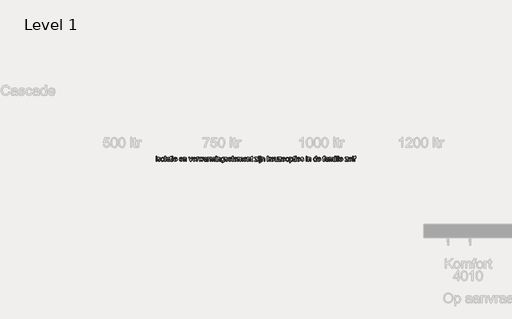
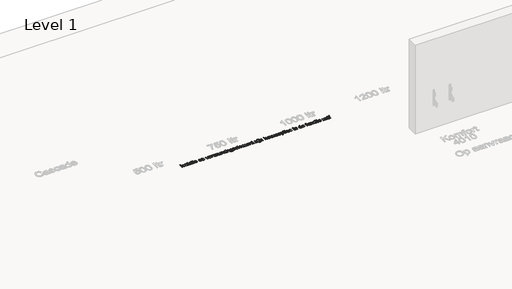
# One storey, part 30 of 34: 1 proxy.
"""IFC4 building model written with IfcOpenShell, lengths in millimetres."""

from ifc_helpers import new_model, si_unit, origin, origin_with_axes, place, context, project, spatial, polyline, outline, extrude, element, save

model = new_model("IFC4")

# Units and contexts
model_context = context("Model", 3, world=origin())
ifc_project = project(units=[si_unit("LENGTHUNIT", "METRE", prefix="MILLI")], contexts=[model_context])

# Site, building, storey
site = spatial("IfcSite", under=ifc_project)
building = spatial("IfcBuilding", under=site)
storey = spatial("IfcBuildingStorey", under=building, Name="Level 1", Elevation=0.0)

# Proxy
placement = place(None, origin())
element("IfcBuildingElementProxy", 1, Name="DN", ObjectType="DN", at=placement, inside=storey, context=model_context, shape_type="SweptSolid", body=[
    extrude(outline(polyline([(-7133.3371494, 10942.2806038), (-7133.3371494, 10997.6100558), (-7123.9193703, 10997.6100558), (-7123.9193703, 10942.2806038), (-7133.3371494, 10942.2806038)])), origin_with_axes(), (0.0, 0.0, 1.0), 5.0),
    extrude(outline(polyline([(-7133.3371494, 11008.2050573), (-7133.3371494, 11017.6228364), (-7123.9193703, 11017.6228364), (-7123.9193703, 11008.2050573), (-7133.3371494, 11008.2050573)])), origin_with_axes(), (0.0, 0.0, 1.0), 5.0),
    extrude(outline(polyline([(-7113.3243688, 10958.7617172), (-7103.9065897, 10959.9389395), (-7099.5471881, 10952.9491816), (-7089.5591919, 10950.5211605), (-7079.9574719, 10952.7468465), (-7076.8304749, 10957.9707709), (-7079.975866, 10962.2014138), (-7089.6695565, 10964.8869524), (-7103.8514074, 10969.4946744), (-7110.041022, 10974.8749485), (-7112.1471464, 10982.4717117), (-7110.4548893, 10989.4890608), (-7105.8379702, 10994.8509409), (-7099.8506907, 10997.637647), (-7091.7480898, 10998.7872782), (-7080.2885656, 10996.9386712), (-7073.0045021, 10991.9354761), (-7069.7671406, 10983.4833872), (-7079.1849197, 10982.3061648), (-7082.7257839, 10987.502498), (-7091.0123258, 10989.3694992), (-7100.0254347, 10987.5852715), (-7102.7293674, 10983.4282049), (-7101.6073273, 10980.6874841), (-7098.0940542, 10978.6089508), (-7089.9822562, 10976.6039939), (-7076.1590903, 10972.1710159), (-7069.7395494, 10967.1494266), (-7067.4126958, 10958.9640523), (-7070.1442196, 10949.9509434), (-7078.0260914, 10943.4118409), (-7089.6879506, 10941.1033814), (-7106.1138817, 10945.5547535), (-7113.3243688, 10958.7617172)])), origin_with_axes(), (0.0, 0.0, 1.0), 5.0),
    extrude(outline(polyline([(-7059.1721391, 10969.9453298), (-7057.1349926, 10983.2856507), (-7051.0235529, 10992.662043), (-7043.472775, 10997.2559694), (-7034.4320749, 10998.7872782), (-7024.5383485, 10996.9225764), (-7016.6357834, 10991.3284708), (-7011.4555451, 10982.4464199), (-7009.728799, 10970.717882), (-7012.7822195, 10953.9608571), (-7021.6757668, 10944.4786987), (-7034.4320749, 10941.1033814), (-7044.445363, 10942.9611855), (-7052.3387311, 10948.5345977), (-7057.4637871, 10957.6028889), (-7059.1721391, 10969.9453298)]), holes=[polyline([(-7049.75436, 10969.9637239), (-7045.3949584, 10955.3680058), (-7034.4320749, 10950.5211605), (-7023.5059797, 10955.3955969), (-7019.146578, 10970.2580295), (-7023.5335708, 10984.5226539), (-7034.4320749, 10989.3694992), (-7045.3949584, 10984.541048), (-7049.75436, 10969.9637239)])]), origin_with_axes(), (0.0, 0.0, 1.0), 5.0),
    extrude(outline(polyline([(-6999.1337975, 10942.2806038), (-6999.1337975, 11017.6228364), (-6989.7160184, 11017.6228364), (-6989.7160184, 10942.2806038), (-6999.1337975, 10942.2806038)])), origin_with_axes(), (0.0, 0.0, 1.0), 5.0),
    extrude(outline(polyline([(-6940.2726783, 10949.3439381), (-6949.4053488, 10942.9611855), (-6959.4945125, 10941.1033814), (-6973.1705257, 10945.5731476), (-6977.9437946, 10956.9958836), (-6976.1411728, 10964.445494), (-6971.4046921, 10969.8533593), (-6964.8104074, 10972.9435681), (-6956.6618212, 10974.3599138), (-6940.3278606, 10977.5972753), (-6940.2726783, 10979.6942027), (-6942.8662463, 10986.6471724), (-6953.2773068, 10989.3694992), (-6962.8054505, 10987.5576803), (-6967.3487931, 10981.1289425), (-6976.7665722, 10982.3061648), (-6972.6922791, 10991.5032147), (-6964.4885106, 10996.892686), (-6952.0632962, 10998.7872782), (-6940.6497573, 10997.1134152), (-6934.2026254, 10992.9103634), (-6931.3147517, 10986.5184137), (-6930.8548992, 10978.277857), (-6930.8548992, 10966.5608155), (-6930.3766526, 10950.1992637), (-6928.5004544, 10942.2806038), (-6937.9182335, 10942.2806038), (-6940.2726783, 10949.3439381)]), holes=[polyline([(-6940.2726783, 10968.1794962), (-6955.4662047, 10965.2916226), (-6963.5688056, 10963.7649123), (-6967.2384285, 10961.2817088), (-6968.5260155, 10957.6580712), (-6965.7209153, 10952.5629055), (-6957.4895557, 10950.5211605), (-6947.961412, 10952.7744377), (-6941.8177827, 10958.2282883), (-6940.3278606, 10965.5123518), (-6940.2726783, 10968.1794962)])]), origin_with_axes(), (0.0, 0.0, 1.0), 5.0),
    extrude(outline(polyline([(-6897.8926724, 10950.1348844), (-6896.7154501, 10942.0046923), (-6903.7603903, 10941.1033814), (-6911.6514591, 10942.6668799), (-6915.5877964, 10946.7687641), (-6916.7282306, 10957.4557361), (-6916.7282306, 10988.1922768), (-6923.7915649, 10988.1922768), (-6923.7915649, 10997.6100558), (-6916.7282306, 10997.6100558), (-6916.7282306, 11011.0561428), (-6907.3104515, 11016.5927668), (-6907.3104515, 10997.6100558), (-6897.8926724, 10997.6100558), (-6897.8926724, 10988.1922768), (-6907.3104515, 10988.1922768), (-6907.3104515, 10957.7316476), (-6906.8138108, 10952.8756052), (-6905.2043271, 10951.1557569), (-6901.9945567, 10950.5211605), (-6897.8926724, 10950.1348844)])), origin_with_axes(), (0.0, 0.0, 1.0), 5.0),
    extrude(outline(polyline([(-6888.4748934, 10942.2806038), (-6888.4748934, 10997.6100558), (-6879.0571143, 10997.6100558), (-6879.0571143, 10942.2806038), (-6888.4748934, 10942.2806038)])), origin_with_axes(), (0.0, 0.0, 1.0), 5.0),
    extrude(outline(polyline([(-6888.4748934, 11008.2050573), (-6888.4748934, 11017.6228364), (-6879.0571143, 11017.6228364), (-6879.0571143, 11008.2050573), (-6888.4748934, 11008.2050573)])), origin_with_axes(), (0.0, 0.0, 1.0), 5.0),
    extrude(outline(polyline([(-6826.1924716, 10958.7617172), (-6816.9586335, 10957.5844948), (-6825.5946633, 10945.4259948), (-6841.6803036, 10941.1033814), (-6852.730559, 10942.9680833), (-6861.2332316, 10948.5621888), (-6866.6548925, 10957.5224147), (-6868.4621128, 10969.4854773), (-6866.6364984, 10981.8509109), (-6861.1596552, 10991.0985445), (-6852.7719457, 10996.8650948), (-6842.2137325, 10998.7872782), (-6831.9843137, 10996.8696933), (-6823.8104357, 10991.1169386), (-6818.4508548, 10981.8876991), (-6816.6643279, 10969.5406596), (-6816.7195102, 10967.0022739), (-6859.0443337, 10967.0022739), (-6853.6272714, 10954.7701975), (-6841.4963626, 10950.5211605), (-6832.2625245, 10952.4893291), (-6826.1924716, 10958.7617172)]), holes=[polyline([(-6859.0443337, 10976.4200529), (-6826.082107, 10976.4200529), (-6829.8528974, 10984.9549152), (-6842.2505207, 10989.3694992), (-6853.8480006, 10985.8470291), (-6859.0443337, 10976.4200529)])]), origin_with_axes(), (0.0, 0.0, 1.0), 5.0),
    extrude(outline(polyline([(-6739.0780151, 10958.7617172), (-6729.844177, 10957.5844948), (-6738.4802069, 10945.4259948), (-6754.5658471, 10941.1033814), (-6765.6161025, 10942.9680833), (-6774.1187752, 10948.5621888), (-6779.5404361, 10957.5224147), (-6781.3476564, 10969.4854773), (-6779.522042, 10981.8509109), (-6774.0451988, 10991.0985445), (-6765.6574893, 10996.8650948), (-6755.099276, 10998.7872782), (-6744.8698573, 10996.8696933), (-6736.6959792, 10991.1169386), (-6731.3363984, 10981.8876991), (-6729.5498714, 10969.5406596), (-6729.6050537, 10967.0022739), (-6771.9298773, 10967.0022739), (-6766.5128149, 10954.7701975), (-6754.3819061, 10950.5211605), (-6745.148068, 10952.4893291), (-6739.0780151, 10958.7617172)]), holes=[polyline([(-6771.9298773, 10976.4200529), (-6738.9676505, 10976.4200529), (-6742.738441, 10984.9549152), (-6755.1360642, 10989.3694992), (-6766.7335441, 10985.8470291), (-6771.9298773, 10976.4200529)])]), origin_with_axes(), (0.0, 0.0, 1.0), 5.0),
    extrude(outline(polyline([(-6720.1320924, 10942.2806038), (-6720.1320924, 10997.6100558), (-6710.7143133, 10997.6100558), (-6710.7143133, 10989.884534), (-6703.5130232, 10996.5615922), (-6693.6813769, 10998.7872782), (-6684.7878297, 10996.9938535), (-6678.7177768, 10992.284964), (-6675.8942824, 10985.3595854), (-6675.3976418, 10976.254506), (-6675.3976418, 10942.2806038), (-6684.8154208, 10942.2806038), (-6684.8154208, 10974.9853131), (-6685.9006727, 10983.3178403), (-6689.7358425, 10987.7232272), (-6696.2013686, 10989.3694992), (-6706.419291, 10985.6722851), (-6710.7143133, 10971.637587), (-6710.7143133, 10942.2806038), (-6720.1320924, 10942.2806038)])), origin_with_axes(), (0.0, 0.0, 1.0), 5.0),
    extrude(outline(polyline([(-6619.4427903, 10942.2806038), (-6638.9037478, 10997.6100558), (-6628.9341458, 10997.6100558), (-6617.1435278, 10964.4638881), (-6613.5934666, 10953.3170636), (-6610.1169817, 10963.8384887), (-6598.2527874, 10997.6100558), (-6588.2831853, 10997.6100558), (-6607.5050195, 10942.2806038), (-6619.4427903, 10942.2806038)])), origin_with_axes(), (0.0, 0.0, 1.0), 5.0),
    extrude(outline(polyline([(-6541.3046545, 10958.7617172), (-6532.0708164, 10957.5844948), (-6540.7068463, 10945.4259948), (-6556.7924865, 10941.1033814), (-6567.8427419, 10942.9680833), (-6576.3454146, 10948.5621888), (-6581.7670755, 10957.5224147), (-6583.5742958, 10969.4854773), (-6581.7486814, 10981.8509109), (-6576.2718382, 10991.0985445), (-6567.8841287, 10996.8650948), (-6557.3259154, 10998.7872782), (-6547.0964967, 10996.8696933), (-6538.9226186, 10991.1169386), (-6533.5630378, 10981.8876991), (-6531.7765108, 10969.5406596), (-6531.8316931, 10967.0022739), (-6574.1565167, 10967.0022739), (-6568.7394543, 10954.7701975), (-6556.6085455, 10950.5211605), (-6547.3747074, 10952.4893291), (-6541.3046545, 10958.7617172)]), holes=[polyline([(-6574.1565167, 10976.4200529), (-6541.1942899, 10976.4200529), (-6544.9650804, 10984.9549152), (-6557.3627036, 10989.3694992), (-6568.9601835, 10985.8470291), (-6574.1565167, 10976.4200529)])]), origin_with_axes(), (0.0, 0.0, 1.0), 5.0),
    extrude(outline(polyline([(-6522.3587318, 10942.2806038), (-6522.3587318, 10997.6100558), (-6514.1181751, 10997.6100558), (-6514.1181751, 10989.4246815), (-6508.2688513, 10996.9662624), (-6502.3827394, 10998.7872782), (-6492.9281721, 10995.8810105), (-6496.0735632, 10987.4381187), (-6502.6954391, 10989.3694992), (-6508.020531, 10987.5116951), (-6511.4142424, 10982.3613471), (-6512.9409527, 10971.3616755), (-6512.9409527, 10942.2806038), (-6522.3587318, 10942.2806038)])), origin_with_axes(), (0.0, 0.0, 1.0), 5.0),
    extrude(outline(polyline([(-6477.8634044, 10942.2806038), (-6494.6940057, 10997.6100558), (-6484.9083447, 10997.6100558), (-6475.3618069, 10965.3284108), (-6472.5107214, 10953.7953102), (-6470.1746707, 10964.9053465), (-6462.5779075, 10997.6100558), (-6451.3575067, 10997.6100558), (-6443.7975317, 10964.997317), (-6441.7189984, 10954.9357444), (-6438.7391543, 10965.54914), (-6429.1742224, 10997.6100558), (-6419.3517731, 10997.6100558), (-6436.3111331, 10942.2806038), (-6447.6970808, 10942.2806038), (-6454.925962, 10974.7277957), (-6457.0228894, 10984.8445506), (-6466.348698, 10942.2806038), (-6477.8634044, 10942.2806038)])), origin_with_axes(), (0.0, 0.0, 1.0), 5.0),
    extrude(outline(polyline([(-6377.5603785, 10949.3439381), (-6386.693049, 10942.9611855), (-6396.7822127, 10941.1033814), (-6410.4582259, 10945.5731476), (-6415.2314948, 10956.9958836), (-6413.428873, 10964.445494), (-6408.6923923, 10969.8533593), (-6402.0981075, 10972.9435681), (-6393.9495213, 10974.3599138), (-6377.6155608, 10977.5972753), (-6377.5603785, 10979.6942027), (-6380.1539465, 10986.6471724), (-6390.565007, 10989.3694992), (-6400.0931507, 10987.5576803), (-6404.6364933, 10981.1289425), (-6414.0542724, 10982.3061648), (-6409.9799793, 10991.5032147), (-6401.7762108, 10996.892686), (-6389.3509964, 10998.7872782), (-6377.9374575, 10997.1134152), (-6371.4903255, 10992.9103634), (-6368.6024519, 10986.5184137), (-6368.1425994, 10978.277857), (-6368.1425994, 10966.5608155), (-6367.6643528, 10950.1992637), (-6365.7881546, 10942.2806038), (-6375.2059337, 10942.2806038), (-6377.5603785, 10949.3439381)]), holes=[polyline([(-6377.5603785, 10968.1794962), (-6392.7539049, 10965.2916226), (-6400.8565058, 10963.7649123), (-6404.5261287, 10961.2817088), (-6405.8137157, 10957.6580712), (-6403.0086155, 10952.5629055), (-6394.7772558, 10950.5211605), (-6385.2491122, 10952.7744377), (-6379.1054828, 10958.2282883), (-6377.6155608, 10965.5123518), (-6377.5603785, 10968.1794962)])]), origin_with_axes(), (0.0, 0.0, 1.0), 5.0),
    extrude(outline(polyline([(-6355.1931532, 10942.2806038), (-6355.1931532, 10997.6100558), (-6346.9525965, 10997.6100558), (-6346.9525965, 10989.4246815), (-6341.1032727, 10996.9662624), (-6335.2171608, 10998.7872782), (-6325.7625935, 10995.8810105), (-6328.9079846, 10987.4381187), (-6335.5298605, 10989.3694992), (-6340.8549524, 10987.5116951), (-6344.2486638, 10982.3613471), (-6345.7753741, 10971.3616755), (-6345.7753741, 10942.2806038), (-6355.1931532, 10942.2806038)])), origin_with_axes(), (0.0, 0.0, 1.0), 5.0),
    extrude(outline(polyline([(-6319.8764816, 10942.2806038), (-6319.8764816, 10997.6100558), (-6310.4587025, 10997.6100558), (-6310.4587025, 10988.5049765), (-6303.9839794, 10995.9637839), (-6294.7685354, 10998.7872782), (-6285.3323623, 10995.9086016), (-6280.1452261, 10987.8427889), (-6272.7967833, 10996.0511559), (-6263.51696, 10998.7872782), (-6251.2021102, 10994.2347385), (-6246.8886938, 10980.2092375), (-6246.8886938, 10942.2806038), (-6256.3064728, 10942.2806038), (-6256.3064728, 10976.1625355), (-6257.1801926, 10984.0260132), (-6260.3439777, 10987.8979712), (-6265.7242519, 10989.3694992), (-6274.9856812, 10985.5987087), (-6278.6736982, 10973.5137852), (-6278.6736982, 10942.2806038), (-6288.0914772, 10942.2806038), (-6288.0914772, 10977.2109992), (-6290.2711781, 10986.3344727), (-6297.4172858, 10989.3694992), (-6304.3886496, 10987.3461482), (-6309.0239628, 10981.4232481), (-6310.4587025, 10970.1844531), (-6310.4587025, 10942.2806038), (-6319.8764816, 10942.2806038)])), origin_with_axes(), (0.0, 0.0, 1.0), 5.0),
    extrude(outline(polyline([(-6232.7620252, 11008.2050573), (-6232.7620252, 11017.6228364), (-6223.3442461, 11017.6228364), (-6223.3442461, 11008.2050573), (-6232.7620252, 11008.2050573)])), origin_with_axes(), (0.0, 0.0, 1.0), 5.0),
    extrude(outline(polyline([(-6232.7620252, 10942.2806038), (-6232.7620252, 10997.6100558), (-6223.3442461, 10997.6100558), (-6223.3442461, 10942.2806038), (-6232.7620252, 10942.2806038)])), origin_with_axes(), (0.0, 0.0, 1.0), 5.0),
    extrude(outline(polyline([(-6209.2175775, 10942.2806038), (-6209.2175775, 10997.6100558), (-6199.7997984, 10997.6100558), (-6199.7997984, 10989.884534), (-6192.5985083, 10996.5615922), (-6182.766862, 10998.7872782), (-6173.8733148, 10996.9938535), (-6167.8032619, 10992.284964), (-6164.9797675, 10985.3595854), (-6164.4831269, 10976.254506), (-6164.4831269, 10942.2806038), (-6173.9009059, 10942.2806038), (-6173.9009059, 10974.9853131), (-6174.9861578, 10983.3178403), (-6178.8213276, 10987.7232272), (-6185.2868537, 10989.3694992), (-6195.5047761, 10985.6722851), (-6199.7997984, 10971.637587), (-6199.7997984, 10942.2806038), (-6209.2175775, 10942.2806038)])), origin_with_axes(), (0.0, 0.0, 1.0), 5.0),
    extrude(outline(polyline([(-6153.8881254, 10937.5717142), (-6144.4703463, 10936.3944919), (-6141.4169258, 10931.4280849), (-6132.2750582, 10929.3311575), (-6122.6365499, 10931.7039964), (-6118.038025, 10938.3626605), (-6117.3942315, 10949.3439381), (-6124.0253044, 10944.0464374), (-6132.1095113, 10942.2806038), (-6141.8192967, 10944.3361444), (-6149.0596742, 10950.5027664), (-6153.5639294, 10959.5434664), (-6155.0653478, 10970.2212413), (-6152.3706122, 10984.8169595), (-6144.5715139, 10995.1452465), (-6132.5693638, 10998.7872782), (-6124.1678587, 10996.7271391), (-6117.3942315, 10990.5467215), (-6117.3942315, 10997.6100558), (-6107.9764524, 10997.6100558), (-6107.9764524, 10949.8405788), (-6110.5516264, 10931.5476466), (-6118.7094096, 10923.0403754), (-6132.4589992, 10919.9133785), (-6148.1215751, 10924.3187654), (-6152.5476554, 10929.834696), (-6153.8881254, 10937.5717142)]), holes=[polyline([(-6145.6475687, 10970.8650348), (-6141.6284579, 10956.2877107), (-6131.5392942, 10951.6983829), (-6121.4685246, 10956.2601196), (-6117.3942315, 10970.5891233), (-6121.5880862, 10984.6330185), (-6131.686447, 10989.3694992), (-6141.5732756, 10984.7065949), (-6145.6475687, 10970.8650348)])]), origin_with_axes(), (0.0, 0.0, 1.0), 5.0),
    extrude(outline(polyline([(-6097.3814509, 10958.7617172), (-6087.9636719, 10959.9389395), (-6083.6042702, 10952.9491816), (-6073.616274, 10950.5211605), (-6064.014554, 10952.7468465), (-6060.887557, 10957.9707709), (-6064.0329481, 10962.2014138), (-6073.7266386, 10964.8869524), (-6087.9084896, 10969.4946744), (-6094.0981041, 10974.8749485), (-6096.2042285, 10982.4717117), (-6094.5119714, 10989.4890608), (-6089.8950523, 10994.8509409), (-6083.9077729, 10997.637647), (-6075.8051719, 10998.7872782), (-6064.3456478, 10996.9386712), (-6057.0615843, 10991.9354761), (-6053.8242227, 10983.4833872), (-6063.2420018, 10982.3061648), (-6066.782866, 10987.502498), (-6075.0694079, 10989.3694992), (-6084.0825168, 10987.5852715), (-6086.7864495, 10983.4282049), (-6085.6644094, 10980.6874841), (-6082.1511363, 10978.6089508), (-6074.0393383, 10976.6039939), (-6060.2161724, 10972.1710159), (-6053.7966316, 10967.1494266), (-6051.4697779, 10958.9640523), (-6054.2013017, 10949.9509434), (-6062.0831735, 10943.4118409), (-6073.7450327, 10941.1033814), (-6090.1709638, 10945.5547535), (-6097.3814509, 10958.7617172)])), origin_with_axes(), (0.0, 0.0, 1.0), 5.0),
    extrude(outline(polyline([(-6002.1368024, 10958.7617172), (-5992.9029643, 10957.5844948), (-6001.5389941, 10945.4259948), (-6017.6246344, 10941.1033814), (-6028.6748898, 10942.9680833), (-6037.1775624, 10948.5621888), (-6042.5992233, 10957.5224147), (-6044.4064436, 10969.4854773), (-6042.5808292, 10981.8509109), (-6037.103986, 10991.0985445), (-6028.7162765, 10996.8650948), (-6018.1580633, 10998.7872782), (-6007.9286445, 10996.8696933), (-5999.7547665, 10991.1169386), (-5994.3951856, 10981.8876991), (-5992.6086587, 10969.5406596), (-5992.663841, 10967.0022739), (-6034.9886646, 10967.0022739), (-6029.5716022, 10954.7701975), (-6017.4406934, 10950.5211605), (-6008.2068553, 10952.4893291), (-6002.1368024, 10958.7617172)]), holes=[polyline([(-6034.9886646, 10976.4200529), (-6002.0264378, 10976.4200529), (-6005.7972282, 10984.9549152), (-6018.1948515, 10989.3694992), (-6029.7923314, 10985.8470291), (-6034.9886646, 10976.4200529)])]), origin_with_axes(), (0.0, 0.0, 1.0), 5.0),
    extrude(outline(polyline([(-5983.1908796, 10942.2806038), (-5983.1908796, 11017.6228364), (-5973.7731006, 11017.6228364), (-5973.7731006, 10942.2806038), (-5983.1908796, 10942.2806038)])), origin_with_axes(), (0.0, 0.0, 1.0), 5.0),
    extrude(outline(polyline([(-5920.9084578, 10958.7617172), (-5911.6746198, 10957.5844948), (-5920.3106496, 10945.4259948), (-5936.3962898, 10941.1033814), (-5947.4465453, 10942.9680833), (-5955.9492179, 10948.5621888), (-5961.3708788, 10957.5224147), (-5963.1780991, 10969.4854773), (-5961.3524847, 10981.8509109), (-5955.8756415, 10991.0985445), (-5947.487932, 10996.8650948), (-5936.9297187, 10998.7872782), (-5926.7003, 10996.8696933), (-5918.5264219, 10991.1169386), (-5913.1668411, 10981.8876991), (-5911.3803142, 10969.5406596), (-5911.4354965, 10967.0022739), (-5953.76032, 10967.0022739), (-5948.3432576, 10954.7701975), (-5936.2123488, 10950.5211605), (-5926.9785108, 10952.4893291), (-5920.9084578, 10958.7617172)]), holes=[polyline([(-5953.76032, 10976.4200529), (-5920.7980932, 10976.4200529), (-5924.5688837, 10984.9549152), (-5936.9665069, 10989.3694992), (-5948.5639868, 10985.8470291), (-5953.76032, 10976.4200529)])]), origin_with_axes(), (0.0, 0.0, 1.0), 5.0),
    extrude(outline(polyline([(-5901.9625351, 10942.2806038), (-5901.9625351, 10997.6100558), (-5892.544756, 10997.6100558), (-5892.544756, 10988.5049765), (-5886.0700329, 10995.9637839), (-5876.8545889, 10998.7872782), (-5867.4184157, 10995.9086016), (-5862.2312796, 10987.8427889), (-5854.8828368, 10996.0511559), (-5845.6030134, 10998.7872782), (-5833.2881636, 10994.2347385), (-5828.9747473, 10980.2092375), (-5828.9747473, 10942.2806038), (-5838.3925263, 10942.2806038), (-5838.3925263, 10976.1625355), (-5839.2662461, 10984.0260132), (-5842.4300312, 10987.8979712), (-5847.8103054, 10989.3694992), (-5857.0717346, 10985.5987087), (-5860.7597516, 10973.5137852), (-5860.7597516, 10942.2806038), (-5870.1775307, 10942.2806038), (-5870.1775307, 10977.2109992), (-5872.3572315, 10986.3344727), (-5879.5033393, 10989.3694992), (-5886.4747031, 10987.3461482), (-5891.1100162, 10981.4232481), (-5892.544756, 10970.1844531), (-5892.544756, 10942.2806038), (-5901.9625351, 10942.2806038)])), origin_with_axes(), (0.0, 0.0, 1.0), 5.0),
    extrude(outline(polyline([(-5776.1101045, 10958.7617172), (-5766.8762665, 10957.5844948), (-5775.5122963, 10945.4259948), (-5791.5979365, 10941.1033814), (-5802.648192, 10942.9680833), (-5811.1508646, 10948.5621888), (-5816.5725255, 10957.5224147), (-5818.3797458, 10969.4854773), (-5816.5541314, 10981.8509109), (-5811.0772882, 10991.0985445), (-5802.6895787, 10996.8650948), (-5792.1313654, 10998.7872782), (-5781.9019467, 10996.8696933), (-5773.7280686, 10991.1169386), (-5768.3684878, 10981.8876991), (-5766.5819609, 10969.5406596), (-5766.6371432, 10967.0022739), (-5808.9619667, 10967.0022739), (-5803.5449043, 10954.7701975), (-5791.4139955, 10950.5211605), (-5782.1801575, 10952.4893291), (-5776.1101045, 10958.7617172)]), holes=[polyline([(-5808.9619667, 10976.4200529), (-5775.9997399, 10976.4200529), (-5779.7705304, 10984.9549152), (-5792.1681536, 10989.3694992), (-5803.7656335, 10985.8470291), (-5808.9619667, 10976.4200529)])]), origin_with_axes(), (0.0, 0.0, 1.0), 5.0),
    extrude(outline(polyline([(-5757.1641818, 10942.2806038), (-5757.1641818, 10997.6100558), (-5747.7464027, 10997.6100558), (-5747.7464027, 10989.884534), (-5740.5451127, 10996.5615922), (-5730.7134663, 10998.7872782), (-5721.8199191, 10996.9938535), (-5715.7498662, 10992.284964), (-5712.9263719, 10985.3595854), (-5712.4297312, 10976.254506), (-5712.4297312, 10942.2806038), (-5721.8475103, 10942.2806038), (-5721.8475103, 10974.9853131), (-5722.9327621, 10983.3178403), (-5726.7679319, 10987.7232272), (-5733.233458, 10989.3694992), (-5743.4513804, 10985.6722851), (-5747.7464027, 10971.637587), (-5747.7464027, 10942.2806038), (-5757.1641818, 10942.2806038)])), origin_with_axes(), (0.0, 0.0, 1.0), 5.0),
    extrude(outline(polyline([(-5679.4675044, 10950.1348844), (-5678.290282, 10942.0046923), (-5685.3352222, 10941.1033814), (-5693.226291, 10942.6668799), (-5697.1626284, 10946.7687641), (-5698.3030626, 10957.4557361), (-5698.3030626, 10988.1922768), (-5705.3663969, 10988.1922768), (-5705.3663969, 10997.6100558), (-5698.3030626, 10997.6100558), (-5698.3030626, 11011.0561428), (-5688.8852835, 11016.5927668), (-5688.8852835, 10997.6100558), (-5679.4675044, 10997.6100558), (-5679.4675044, 10988.1922768), (-5688.8852835, 10988.1922768), (-5688.8852835, 10957.7316476), (-5688.3886428, 10952.8756052), (-5686.7791591, 10951.1557569), (-5683.5693887, 10950.5211605), (-5679.4675044, 10950.1348844)])), origin_with_axes(), (0.0, 0.0, 1.0), 5.0),
    extrude(outline(polyline([(-5646.5052776, 10942.2806038), (-5646.5052776, 10951.1465599), (-5614.0029034, 10988.1922768), (-5623.6230175, 10988.1922768), (-5644.1508329, 10988.1922768), (-5644.1508329, 10997.6100558), (-5600.5936046, 10997.6100558), (-5600.5936046, 10989.6086225), (-5629.417159, 10956.7383662), (-5633.8317429, 10951.6983829), (-5622.9424359, 10951.6983829), (-5599.4163823, 10951.6983829), (-5599.4163823, 10942.2806038), (-5646.5052776, 10942.2806038)])), origin_with_axes(), (0.0, 0.0, 1.0), 5.0),
    extrude(outline(polyline([(-5589.9986032, 11008.2050573), (-5589.9986032, 11017.6228364), (-5580.5808241, 11017.6228364), (-5580.5808241, 11008.2050573), (-5589.9986032, 11008.2050573)])), origin_with_axes(), (0.0, 0.0, 1.0), 5.0),
    extrude(outline(polyline([(-5589.9986032, 10942.2806038), (-5589.9986032, 10997.6100558), (-5580.5808241, 10997.6100558), (-5580.5808241, 10942.2806038), (-5589.9986032, 10942.2806038)])), origin_with_axes(), (0.0, 0.0, 1.0), 5.0),
    extrude(outline(polyline([(-5566.4541555, 11008.2050573), (-5566.4541555, 11017.6228364), (-5557.0363764, 11017.6228364), (-5557.0363764, 11008.2050573), (-5566.4541555, 11008.2050573)])), origin_with_axes(), (0.0, 0.0, 1.0), 5.0),
    extrude(outline(polyline([(-5578.3183498, 10921.0538127), (-5576.3317871, 10930.0117392), (-5572.0091736, 10929.3311575), (-5567.8245159, 10931.1981587), (-5566.4541555, 10940.5331643), (-5566.4541555, 10997.6100558), (-5557.0363764, 10997.6100558), (-5557.0363764, 10939.3191537), (-5559.7035209, 10925.1189087), (-5564.2100753, 10921.214761), (-5570.9607099, 10919.9133785), (-5578.3183498, 10921.0538127)])), origin_with_axes(), (0.0, 0.0, 1.0), 5.0),
    extrude(outline(polyline([(-5542.9097078, 10942.2806038), (-5542.9097078, 10997.6100558), (-5533.4919287, 10997.6100558), (-5533.4919287, 10989.884534), (-5526.2906387, 10996.5615922), (-5516.4589923, 10998.7872782), (-5507.5654451, 10996.9938535), (-5501.4953922, 10992.284964), (-5498.6718979, 10985.3595854), (-5498.1752572, 10976.254506), (-5498.1752572, 10942.2806038), (-5507.5930363, 10942.2806038), (-5507.5930363, 10974.9853131), (-5508.6782882, 10983.3178403), (-5512.513458, 10987.7232272), (-5518.978984, 10989.3694992), (-5529.1969064, 10985.6722851), (-5533.4919287, 10971.637587), (-5533.4919287, 10942.2806038), (-5542.9097078, 10942.2806038)])), origin_with_axes(), (0.0, 0.0, 1.0), 5.0),
    extrude(outline(polyline([(-5455.7952513, 10942.2806038), (-5455.7952513, 11017.6228364), (-5446.3774723, 11017.6228364), (-5446.3774723, 10977.1374228), (-5425.2610457, 10997.6100558), (-5412.2380231, 10997.6100558), (-5433.611967, 10976.8799054), (-5411.0608007, 10942.2806038), (-5422.0604724, 10942.2806038), (-5440.3626016, 10970.3316059), (-5446.3774723, 10964.5006763), (-5446.3774723, 10942.2806038), (-5455.7952513, 10942.2806038)])), origin_with_axes(), (0.0, 0.0, 1.0), 5.0),
    extrude(outline(polyline([(-5364.0822699, 10958.7617172), (-5354.8484319, 10957.5844948), (-5363.4844617, 10945.4259948), (-5379.5701019, 10941.1033814), (-5390.6203574, 10942.9680833), (-5399.12303, 10948.5621888), (-5404.5446909, 10957.5224147), (-5406.3519112, 10969.4854773), (-5404.5262968, 10981.8509109), (-5399.0494536, 10991.0985445), (-5390.6617441, 10996.8650948), (-5380.1035308, 10998.7872782), (-5369.8741121, 10996.8696933), (-5361.700234, 10991.1169386), (-5356.3406532, 10981.8876991), (-5354.5541263, 10969.5406596), (-5354.6093086, 10967.0022739), (-5396.9341321, 10967.0022739), (-5391.5170697, 10954.7701975), (-5379.3861609, 10950.5211605), (-5370.1523229, 10952.4893291), (-5364.0822699, 10958.7617172)]), holes=[polyline([(-5396.9341321, 10976.4200529), (-5363.9719053, 10976.4200529), (-5367.7426958, 10984.9549152), (-5380.140319, 10989.3694992), (-5391.7377989, 10985.8470291), (-5396.9341321, 10976.4200529)])]), origin_with_axes(), (0.0, 0.0, 1.0), 5.0),
    extrude(outline(polyline([(-5309.8196757, 10942.2806038), (-5309.8196757, 10951.7903533), (-5317.1957097, 10943.7751244), (-5326.8158238, 10941.1033814), (-5335.6725829, 10942.9795796), (-5341.779424, 10947.6884691), (-5344.5845242, 10954.6230447), (-5345.1363472, 10963.3786362), (-5345.1363472, 10997.6100558), (-5335.7185681, 10997.6100558), (-5335.7185681, 10967.8116142), (-5335.148351, 10958.2098942), (-5331.4235458, 10952.5721026), (-5324.4061968, 10950.5211605), (-5316.5427191, 10952.6180878), (-5311.3463859, 10958.3294558), (-5309.8196757, 10968.8232897), (-5309.8196757, 10997.6100558), (-5300.4018966, 10997.6100558), (-5300.4018966, 10942.2806038), (-5309.8196757, 10942.2806038)])), origin_with_axes(), (0.0, 0.0, 1.0), 5.0),
    extrude(outline(polyline([(-5293.3385623, 10942.2806038), (-5293.3385623, 10951.1465599), (-5260.836188, 10988.1922768), (-5270.4563022, 10988.1922768), (-5290.9841175, 10988.1922768), (-5290.9841175, 10997.6100558), (-5247.4268893, 10997.6100558), (-5247.4268893, 10989.6086225), (-5276.2504436, 10956.7383662), (-5280.6650275, 10951.6983829), (-5269.7757205, 10951.6983829), (-5246.2496669, 10951.6983829), (-5246.2496669, 10942.2806038), (-5293.3385623, 10942.2806038)])), origin_with_axes(), (0.0, 0.0, 1.0), 5.0),
    extrude(outline(polyline([(-5198.0939137, 10958.7617172), (-5188.8600756, 10957.5844948), (-5197.4961055, 10945.4259948), (-5213.5817457, 10941.1033814), (-5224.6320012, 10942.9680833), (-5233.1346738, 10948.5621888), (-5238.5563347, 10957.5224147), (-5240.363555, 10969.4854773), (-5238.5379406, 10981.8509109), (-5233.0610974, 10991.0985445), (-5224.6733879, 10996.8650948), (-5214.1151746, 10998.7872782), (-5203.8857559, 10996.8696933), (-5195.7118778, 10991.1169386), (-5190.352297, 10981.8876991), (-5188.56577, 10969.5406596), (-5188.6209523, 10967.0022739), (-5230.9457759, 10967.0022739), (-5225.5287135, 10954.7701975), (-5213.3978047, 10950.5211605), (-5204.1639666, 10952.4893291), (-5198.0939137, 10958.7617172)]), holes=[polyline([(-5230.9457759, 10976.4200529), (-5197.9835491, 10976.4200529), (-5201.7543396, 10984.9549152), (-5214.1519628, 10989.3694992), (-5225.7494427, 10985.8470291), (-5230.9457759, 10976.4200529)])]), origin_with_axes(), (0.0, 0.0, 1.0), 5.0),
    extrude(outline(polyline([(-5181.5024357, 10969.9453298), (-5179.4652892, 10983.2856507), (-5173.3538495, 10992.662043), (-5165.8030716, 10997.2559694), (-5156.7623716, 10998.7872782), (-5146.8686452, 10996.9225764), (-5138.96608, 10991.3284708), (-5133.7858417, 10982.4464199), (-5132.0590956, 10970.717882), (-5135.1125161, 10953.9608571), (-5144.0060634, 10944.4786987), (-5156.7623716, 10941.1033814), (-5166.7756596, 10942.9611855), (-5174.6690277, 10948.5345977), (-5179.7940837, 10957.6028889), (-5181.5024357, 10969.9453298)]), holes=[polyline([(-5172.0846567, 10969.9637239), (-5167.725255, 10955.3680058), (-5156.7623716, 10950.5211605), (-5145.8362763, 10955.3955969), (-5141.4768747, 10970.2580295), (-5145.8638675, 10984.5226539), (-5156.7623716, 10989.3694992), (-5167.725255, 10984.541048), (-5172.0846567, 10969.9637239)])]), origin_with_axes(), (0.0, 0.0, 1.0), 5.0),
    extrude(outline(polyline([(-5121.4640941, 10921.0906009), (-5121.4640941, 10997.6100558), (-5112.0463151, 10997.6100558), (-5112.0463151, 10988.3762178), (-5105.5348037, 10996.1845131), (-5096.7424241, 10998.7872782), (-5084.8046533, 10995.1452465), (-5077.005555, 10984.8813388), (-5074.3751987, 10970.3683941), (-5077.3458459, 10955.1104884), (-5085.9726786, 10944.717822), (-5097.8828582, 10941.1033814), (-5106.0774297, 10943.5222055), (-5112.0463151, 10949.6382437), (-5112.0463151, 10921.0906009), (-5121.4640941, 10921.0906009)]), holes=[polyline([(-5112.0463151, 10969.5038714), (-5107.972022, 10955.1564736), (-5098.0851933, 10950.5211605), (-5087.9960296, 10955.3220205), (-5083.7929778, 10970.2028472), (-5087.8948621, 10984.5870332), (-5097.6989172, 10989.3694992), (-5107.6961105, 10984.2835306), (-5112.0463151, 10969.5038714)])]), origin_with_axes(), (0.0, 0.0, 1.0), 5.0),
    extrude(outline(polyline([(-5043.7674167, 10950.1348844), (-5042.5901944, 10942.0046923), (-5049.6351346, 10941.1033814), (-5057.5262034, 10942.6668799), (-5061.4625407, 10946.7687641), (-5062.6029749, 10957.4557361), (-5062.6029749, 10988.1922768), (-5069.6663092, 10988.1922768), (-5069.6663092, 10997.6100558), (-5062.6029749, 10997.6100558), (-5062.6029749, 11011.0561428), (-5053.1851958, 11016.5927668), (-5053.1851958, 10997.6100558), (-5043.7674167, 10997.6100558), (-5043.7674167, 10988.1922768), (-5053.1851958, 10988.1922768), (-5053.1851958, 10957.7316476), (-5052.6885551, 10952.8756052), (-5051.0790714, 10951.1557569), (-5047.869301, 10950.5211605), (-5043.7674167, 10950.1348844)])), origin_with_axes(), (0.0, 0.0, 1.0), 5.0),
    extrude(outline(polyline([(-5034.3496377, 11008.2050573), (-5034.3496377, 11017.6228364), (-5024.9318586, 11017.6228364), (-5024.9318586, 11008.2050573), (-5034.3496377, 11008.2050573)])), origin_with_axes(), (0.0, 0.0, 1.0), 5.0),
    extrude(outline(polyline([(-5034.3496377, 10942.2806038), (-5034.3496377, 10997.6100558), (-5024.9318586, 10997.6100558), (-5024.9318586, 10942.2806038), (-5034.3496377, 10942.2806038)])), origin_with_axes(), (0.0, 0.0, 1.0), 5.0),
    extrude(outline(polyline([(-4972.0672159, 10958.7617172), (-4962.8333778, 10957.5844948), (-4971.4694076, 10945.4259948), (-4987.5550479, 10941.1033814), (-4998.6053033, 10942.9680833), (-5007.1079759, 10948.5621888), (-5012.5296368, 10957.5224147), (-5014.3368571, 10969.4854773), (-5012.5112427, 10981.8509109), (-5007.0343995, 10991.0985445), (-4998.64669, 10996.8650948), (-4988.0884768, 10998.7872782), (-4977.859058, 10996.8696933), (-4969.68518, 10991.1169386), (-4964.3255992, 10981.8876991), (-4962.5390722, 10969.5406596), (-4962.5942545, 10967.0022739), (-5004.9190781, 10967.0022739), (-4999.5020157, 10954.7701975), (-4987.3711069, 10950.5211605), (-4978.1372688, 10952.4893291), (-4972.0672159, 10958.7617172)]), holes=[polyline([(-5004.9190781, 10976.4200529), (-4971.9568513, 10976.4200529), (-4975.7276417, 10984.9549152), (-4988.125265, 10989.3694992), (-4999.7227449, 10985.8470291), (-5004.9190781, 10976.4200529)])]), origin_with_axes(), (0.0, 0.0, 1.0), 5.0),
    extrude(outline(polyline([(-4956.6529603, 10958.7617172), (-4947.2351812, 10959.9389395), (-4942.8757796, 10952.9491816), (-4932.8877834, 10950.5211605), (-4923.2860633, 10952.7468465), (-4920.1590664, 10957.9707709), (-4923.3044574, 10962.2014138), (-4932.998148, 10964.8869524), (-4947.1799989, 10969.4946744), (-4953.3696135, 10974.8749485), (-4955.4757379, 10982.4717117), (-4953.7834807, 10989.4890608), (-4949.1665617, 10994.8509409), (-4943.1792822, 10997.637647), (-4935.0766813, 10998.7872782), (-4923.6171571, 10996.9386712), (-4916.3330936, 10991.9354761), (-4913.0957321, 10983.4833872), (-4922.5135111, 10982.3061648), (-4926.0543753, 10987.502498), (-4934.3409173, 10989.3694992), (-4943.3540262, 10987.5852715), (-4946.0579588, 10983.4282049), (-4944.9359187, 10980.6874841), (-4941.4226457, 10978.6089508), (-4933.3108477, 10976.6039939), (-4919.4876817, 10972.1710159), (-4913.0681409, 10967.1494266), (-4910.7412873, 10958.9640523), (-4913.4728111, 10949.9509434), (-4921.3546829, 10943.4118409), (-4933.0165421, 10941.1033814), (-4949.4424732, 10945.5547535), (-4956.6529603, 10958.7617172)])), origin_with_axes(), (0.0, 0.0, 1.0), 5.0),
    extrude(outline(polyline([(-4870.7157262, 11008.2050573), (-4870.7157262, 11017.6228364), (-4861.2979471, 11017.6228364), (-4861.2979471, 11008.2050573), (-4870.7157262, 11008.2050573)])), origin_with_axes(), (0.0, 0.0, 1.0), 5.0),
    extrude(outline(polyline([(-4870.7157262, 10942.2806038), (-4870.7157262, 10997.6100558), (-4861.2979471, 10997.6100558), (-4861.2979471, 10942.2806038), (-4870.7157262, 10942.2806038)])), origin_with_axes(), (0.0, 0.0, 1.0), 5.0),
    extrude(outline(polyline([(-4847.1712785, 10942.2806038), (-4847.1712785, 10997.6100558), (-4837.7534994, 10997.6100558), (-4837.7534994, 10989.884534), (-4830.5522094, 10996.5615922), (-4820.7205631, 10998.7872782), (-4811.8270158, 10996.9938535), (-4805.7569629, 10992.284964), (-4802.9334686, 10985.3595854), (-4802.4368279, 10976.254506), (-4802.4368279, 10942.2806038), (-4811.854607, 10942.2806038), (-4811.854607, 10974.9853131), (-4812.9398589, 10983.3178403), (-4816.7750287, 10987.7232272), (-4823.2405547, 10989.3694992), (-4833.4584772, 10985.6722851), (-4837.7534994, 10971.637587), (-4837.7534994, 10942.2806038), (-4847.1712785, 10942.2806038)])), origin_with_axes(), (0.0, 0.0, 1.0), 5.0),
    extrude(outline(polyline([(-4725.9173729, 10942.2806038), (-4725.9173729, 10951.164954), (-4732.1483742, 10943.6187745), (-4740.7614114, 10941.1033814), (-4752.4232707, 10944.7454131), (-4760.6638274, 10954.9081533), (-4763.5884892, 10969.8901475), (-4760.8937536, 10984.8813388), (-4752.8187438, 10995.2004288), (-4740.7981996, 10998.7872782), (-4732.1161845, 10996.2213013), (-4725.9173729, 10989.5534402), (-4725.9173729, 11017.6228364), (-4716.4995938, 11017.6228364), (-4716.4995938, 10942.2806038), (-4725.9173729, 10942.2806038)]), holes=[polyline([(-4754.1707101, 10969.9269357), (-4749.9216731, 10955.3496117), (-4739.8968887, 10950.5211605), (-4729.991666, 10955.1288825), (-4725.9173729, 10969.2095658), (-4730.0652424, 10984.4950627), (-4740.2831648, 10989.3694992), (-4750.1975846, 10984.6882008), (-4754.1707101, 10969.9269357)])]), origin_with_axes(), (0.0, 0.0, 1.0), 5.0),
    extrude(outline(polyline([(-4663.6349511, 10958.7617172), (-4654.4011131, 10957.5844948), (-4663.0371429, 10945.4259948), (-4679.1227831, 10941.1033814), (-4690.1730386, 10942.9680833), (-4698.6757112, 10948.5621888), (-4704.0973721, 10957.5224147), (-4705.9045924, 10969.4854773), (-4704.078978, 10981.8509109), (-4698.6021348, 10991.0985445), (-4690.2144253, 10996.8650948), (-4679.656212, 10998.7872782), (-4669.4267933, 10996.8696933), (-4661.2529152, 10991.1169386), (-4655.8933344, 10981.8876991), (-4654.1068075, 10969.5406596), (-4654.1619898, 10967.0022739), (-4696.4868133, 10967.0022739), (-4691.0697509, 10954.7701975), (-4678.9388421, 10950.5211605), (-4669.7050041, 10952.4893291), (-4663.6349511, 10958.7617172)]), holes=[polyline([(-4696.4868133, 10976.4200529), (-4663.5245865, 10976.4200529), (-4667.295377, 10984.9549152), (-4679.6930002, 10989.3694992), (-4691.2904801, 10985.8470291), (-4696.4868133, 10976.4200529)])]), origin_with_axes(), (0.0, 0.0, 1.0), 5.0),
    extrude(outline(polyline([(-4612.904024, 10942.2806038), (-4612.904024, 10988.1922768), (-4621.1445807, 10988.1922768), (-4621.1445807, 10997.6100558), (-4612.904024, 10997.6100558), (-4612.904024, 11003.1834681), (-4611.9107426, 11011.0377487), (-4607.0914885, 11016.6479491), (-4597.600133, 11018.8000588), (-4589.0100884, 11017.7699892), (-4590.3896459, 11008.9408213), (-4595.8159053, 11009.3822797), (-4601.7480025, 11007.8187812), (-4603.4862449, 11001.9878516), (-4603.4862449, 10997.6100558), (-4592.8912435, 10997.6100558), (-4592.8912435, 10988.1922768), (-4603.4862449, 10988.1922768), (-4603.4862449, 10942.2806038), (-4612.904024, 10942.2806038)])), origin_with_axes(), (0.0, 0.0, 1.0), 5.0),
    extrude(outline(polyline([(-4549.3340152, 10949.3439381), (-4558.4666858, 10942.9611855), (-4568.5558495, 10941.1033814), (-4582.2318626, 10945.5731476), (-4587.0051315, 10956.9958836), (-4585.2025098, 10964.445494), (-4580.4660291, 10969.8533593), (-4573.8717443, 10972.9435681), (-4565.7231581, 10974.3599138), (-4549.3891975, 10977.5972753), (-4549.3340152, 10979.6942027), (-4551.9275833, 10986.6471724), (-4562.3386438, 10989.3694992), (-4571.8667874, 10987.5576803), (-4576.4101301, 10981.1289425), (-4585.8279092, 10982.3061648), (-4581.7536161, 10991.5032147), (-4573.5498476, 10996.892686), (-4561.1246332, 10998.7872782), (-4549.7110943, 10997.1134152), (-4543.2639623, 10992.9103634), (-4540.3760886, 10986.5184137), (-4539.9162362, 10978.277857), (-4539.9162362, 10966.5608155), (-4539.4379896, 10950.1992637), (-4537.5617914, 10942.2806038), (-4546.9795705, 10942.2806038), (-4549.3340152, 10949.3439381)]), holes=[polyline([(-4549.3340152, 10968.1794962), (-4564.5275416, 10965.2916226), (-4572.6301426, 10963.7649123), (-4576.2997655, 10961.2817088), (-4577.5873525, 10957.6580712), (-4574.7822522, 10952.5629055), (-4566.5508926, 10950.5211605), (-4557.0227489, 10952.7744377), (-4550.8791196, 10958.2282883), (-4549.3891975, 10965.5123518), (-4549.3340152, 10968.1794962)])]), origin_with_axes(), (0.0, 0.0, 1.0), 5.0),
    extrude(outline(polyline([(-4526.9667899, 10942.2806038), (-4526.9667899, 10997.6100558), (-4517.5490108, 10997.6100558), (-4517.5490108, 10988.5049765), (-4511.0742877, 10995.9637839), (-4501.8588438, 10998.7872782), (-4492.4226706, 10995.9086016), (-4487.2355344, 10987.8427889), (-4479.8870916, 10996.0511559), (-4470.6072683, 10998.7872782), (-4458.2924185, 10994.2347385), (-4453.9790021, 10980.2092375), (-4453.9790021, 10942.2806038), (-4463.3967812, 10942.2806038), (-4463.3967812, 10976.1625355), (-4464.2705009, 10984.0260132), (-4467.4342861, 10987.8979712), (-4472.8145602, 10989.3694992), (-4482.0759895, 10985.5987087), (-4485.7640065, 10973.5137852), (-4485.7640065, 10942.2806038), (-4495.1817855, 10942.2806038), (-4495.1817855, 10977.2109992), (-4497.3614864, 10986.3344727), (-4504.5075941, 10989.3694992), (-4511.4789579, 10987.3461482), (-4516.1142711, 10981.4232481), (-4517.5490108, 10970.1844531), (-4517.5490108, 10942.2806038), (-4526.9667899, 10942.2806038)])), origin_with_axes(), (0.0, 0.0, 1.0), 5.0),
    extrude(outline(polyline([(-4439.8523335, 11008.2050573), (-4439.8523335, 11017.6228364), (-4430.4345544, 11017.6228364), (-4430.4345544, 11008.2050573), (-4439.8523335, 11008.2050573)])), origin_with_axes(), (0.0, 0.0, 1.0), 5.0),
    extrude(outline(polyline([(-4439.8523335, 10942.2806038), (-4439.8523335, 10997.6100558), (-4430.4345544, 10997.6100558), (-4430.4345544, 10942.2806038), (-4439.8523335, 10942.2806038)])), origin_with_axes(), (0.0, 0.0, 1.0), 5.0),
    extrude(outline(polyline([(-4416.3078858, 10942.2806038), (-4416.3078858, 11017.6228364), (-4406.8901067, 11017.6228364), (-4406.8901067, 10942.2806038), (-4416.3078858, 10942.2806038)])), origin_with_axes(), (0.0, 0.0, 1.0), 5.0),
    extrude(outline(polyline([(-4392.7634381, 11008.2050573), (-4392.7634381, 11017.6228364), (-4383.345659, 11017.6228364), (-4383.345659, 11008.2050573), (-4392.7634381, 11008.2050573)])), origin_with_axes(), (0.0, 0.0, 1.0), 5.0),
    extrude(outline(polyline([(-4392.7634381, 10942.2806038), (-4392.7634381, 10997.6100558), (-4383.345659, 10997.6100558), (-4383.345659, 10942.2806038), (-4392.7634381, 10942.2806038)])), origin_with_axes(), (0.0, 0.0, 1.0), 5.0),
    extrude(outline(polyline([(-4330.4810163, 10958.7617172), (-4321.2471782, 10957.5844948), (-4329.8832081, 10945.4259948), (-4345.9688483, 10941.1033814), (-4357.0191037, 10942.9680833), (-4365.5217763, 10948.5621888), (-4370.9434372, 10957.5224147), (-4372.7506575, 10969.4854773), (-4370.9250431, 10981.8509109), (-4365.4481999, 10991.0985445), (-4357.0604904, 10996.8650948), (-4346.5022772, 10998.7872782), (-4336.2728585, 10996.8696933), (-4328.0989804, 10991.1169386), (-4322.7393996, 10981.8876991), (-4320.9528726, 10969.5406596), (-4321.0080549, 10967.0022739), (-4363.3328785, 10967.0022739), (-4357.9158161, 10954.7701975), (-4345.7849073, 10950.5211605), (-4336.5510692, 10952.4893291), (-4330.4810163, 10958.7617172)]), holes=[polyline([(-4363.3328785, 10976.4200529), (-4330.3706517, 10976.4200529), (-4334.1414422, 10984.9549152), (-4346.5390654, 10989.3694992), (-4358.1365453, 10985.8470291), (-4363.3328785, 10976.4200529)])]), origin_with_axes(), (0.0, 0.0, 1.0), 5.0),
    extrude(outline(polyline([(-4287.9906459, 10942.2806038), (-4287.9906459, 10951.1465599), (-4255.4882716, 10988.1922768), (-4265.1083858, 10988.1922768), (-4285.6362011, 10988.1922768), (-4285.6362011, 10997.6100558), (-4242.0789729, 10997.6100558), (-4242.0789729, 10989.6086225), (-4270.9025272, 10956.7383662), (-4275.3171111, 10951.6983829), (-4264.4278041, 10951.6983829), (-4240.9017505, 10951.6983829), (-4240.9017505, 10942.2806038), (-4287.9906459, 10942.2806038)])), origin_with_axes(), (0.0, 0.0, 1.0), 5.0),
    extrude(outline(polyline([(-4192.7459973, 10958.7617172), (-4183.5121592, 10957.5844948), (-4192.1481891, 10945.4259948), (-4208.2338293, 10941.1033814), (-4219.2840847, 10942.9680833), (-4227.7867573, 10948.5621888), (-4233.2084182, 10957.5224147), (-4235.0156385, 10969.4854773), (-4233.1900241, 10981.8509109), (-4227.7131809, 10991.0985445), (-4219.3254715, 10996.8650948), (-4208.7672582, 10998.7872782), (-4198.5378395, 10996.8696933), (-4190.3639614, 10991.1169386), (-4185.0043806, 10981.8876991), (-4183.2178536, 10969.5406596), (-4183.2730359, 10967.0022739), (-4225.5978595, 10967.0022739), (-4220.1807971, 10954.7701975), (-4208.0498883, 10950.5211605), (-4198.8160502, 10952.4893291), (-4192.7459973, 10958.7617172)]), holes=[polyline([(-4225.5978595, 10976.4200529), (-4192.6356327, 10976.4200529), (-4196.4064232, 10984.9549152), (-4208.8040464, 10989.3694992), (-4220.4015263, 10985.8470291), (-4225.5978595, 10976.4200529)])]), origin_with_axes(), (0.0, 0.0, 1.0), 5.0),
    extrude(outline(polyline([(-4173.8000746, 10942.2806038), (-4173.8000746, 11017.6228364), (-4164.3822955, 11017.6228364), (-4164.3822955, 10942.2806038), (-4173.8000746, 10942.2806038)])), origin_with_axes(), (0.0, 0.0, 1.0), 5.0),
    extrude(outline(polyline([(-4147.9011821, 10942.2806038), (-4147.9011821, 10988.1922768), (-4156.1417388, 10988.1922768), (-4156.1417388, 10997.6100558), (-4147.9011821, 10997.6100558), (-4147.9011821, 11003.1834681), (-4146.9079007, 11011.0377487), (-4142.0886466, 11016.6479491), (-4132.5972911, 11018.8000588), (-4124.0072465, 11017.7699892), (-4125.386804, 11008.9408213), (-4130.8130634, 11009.3822797), (-4136.7451606, 11007.8187812), (-4138.483403, 11001.9878516), (-4138.483403, 10997.6100558), (-4127.8884016, 10997.6100558), (-4127.8884016, 10988.1922768), (-4138.483403, 10988.1922768), (-4138.483403, 10942.2806038), (-4147.9011821, 10942.2806038)])), origin_with_axes(), (0.0, 0.0, 1.0), 5.0),
])

save(model, "model.ifc")
